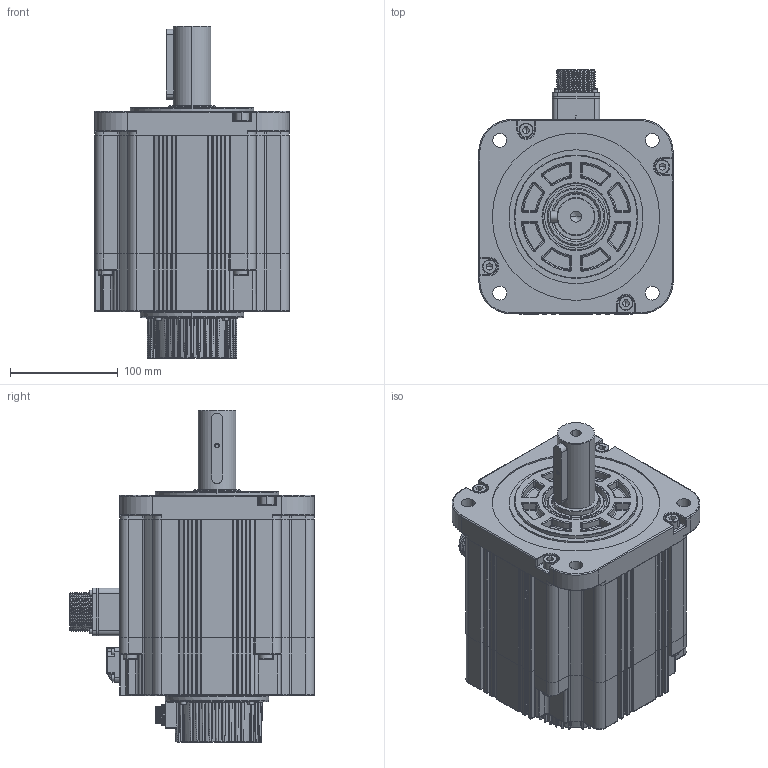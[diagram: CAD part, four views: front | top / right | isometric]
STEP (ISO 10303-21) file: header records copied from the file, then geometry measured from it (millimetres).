
FILE_DESCRIPTION (( 'STEP AP214' ), '1' );
FILE_NAME ('47酗沺郋 湍价陬.STEP', '2021-09-29T01:05:40', ( '' ), ( '' ), 'SwSTEP 2.0', 'SolidWorks 2014', '' );
FILE_SCHEMA (( 'AUTOMOTIVE_DESIGN' ));
Length unit declared in the file: millimetre
Products named in the file (20): 埴芛囀鞠褒 ISO 4762 M3 x 30 --- 18N; SC180瑤脣釱1015; 价陬揤盄裔200912; す瑩^180#陔萇儂-拸价陬 201021; 埴芛囀鞠褒 ISO 4762 M3 x 10 --- 10N; 埴芛囀鞠褒 ISO 4762 M6 x 20 --- 20N; 埴芛囀鞠褒 ISO 4762 M3 x 8 --- 8N; SC瑤諾脣芛 24-11-9pin_1; 180粣-47沺郋; SC晤鎢ん欶200908_10郋; 180#陔隅赽201019; SC蚐猾 D00B999YF8-TC 44-62-10; SCSC瑤諾脣芛 16M-9H; 埴芛囀鞠褒 ISO 4762 M8 x 30 --- 30N; SC180ヶ傷裔1009; SC180儂褲1009; SC180#綴傷裔蹟隊熬傻-201020; 坋趼攫芛蹟佪 M2X8-8  H type-N; 47酗沺郋 湍价陬; 綴傷裔-111
Assembly tree (40 placements, depth 3):
  47酗沺郋 湍价陬
    180#陔隅赽201019
      SC180儂褲1009
      SC180ヶ傷裔1009
      SC180瑤脣釱1015
    SC晤鎢ん欶200908_10郋
    SCSC瑤諾脣芛 16M-9H
    SC蚐猾 D00B999YF8-TC 44-62-10
    坋趼攫芛蹟佪 M2X8-8  H type-N  x4
    埴芛囀鞠褒 ISO 4762 M3 x 10 --- 10N  x4
    埴芛囀鞠褒 ISO 4762 M8 x 30 --- 30N  x8
    埴芛囀鞠褒 ISO 4762 M3 x 30 --- 18N  x4
    180粣-47沺郋
    す瑩^180#陔萇儂-拸价陬 201021
    SC瑤諾脣芛 24-11-9pin_1
    綴傷裔-111
      SC180#綴傷裔蹟隊熬傻-201020
    价陬揤盄裔200912
    埴芛囀鞠褒 ISO 4762 M3 x 8 --- 8N  x4
    埴芛囀鞠褒 ISO 4762 M6 x 20 --- 20N  x3
Bounding box: 180 x 226.3 x 307.5 mm (x, y, z)
Volume: 1996193.8 mm3; surface area: 536108.4 mm2
Topology: 39 solids, 39 shells, 3715 faces, 9051 edges, 5289 vertices
Faces by surface type: cylinder 1276, plane 1003, torus 489, bspline 475, cone 290, sphere 182
Entity records: 152374 total; most frequent: CARTESIAN_POINT 45624, ORIENTED_EDGE 15080, DIRECTION 15025, EDGE_CURVE 7540, AXIS2_PLACEMENT_3D 6151, VERTEX_POINT 4531, EDGE_LOOP 3383, CIRCLE 3349
